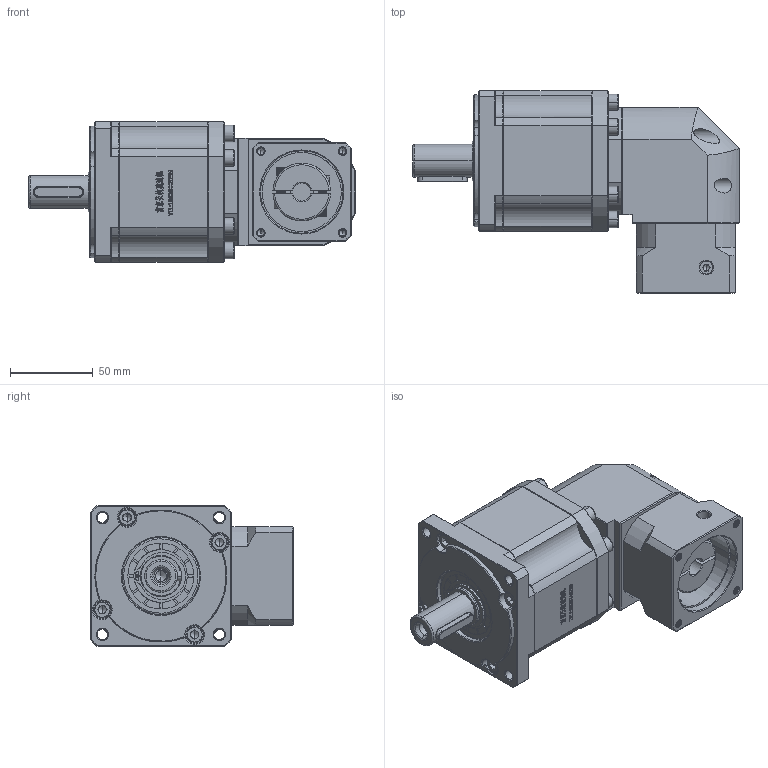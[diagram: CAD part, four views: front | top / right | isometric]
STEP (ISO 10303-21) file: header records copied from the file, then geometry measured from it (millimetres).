
FILE_DESCRIPTION (( 'STEP AP214' ), '1' );
FILE_NAME ('ZBR90-D20-L3-11-50-70-M5.step', '2022-05-07T15:17:13', ( '' ), ( 'Microsoft' ), 'SwSTEP 2.0', 'SolidWorks 2016', '' );
FILE_SCHEMA (( 'AUTOMOTIVE_DESIGN' ));
Length unit declared in the file: millimetre
Products named in the file (1): ZBR90-D20-L3-11-50-70-M5
Bounding box: 198 x 122.7 x 85 mm (x, y, z)
Volume: 921128.1 mm3; surface area: 105477.1 mm2
Topology: 5 solids, 5 shells, 3040 faces, 8164 edges, 5268 vertices
Faces by surface type: plane 1598, bspline 608, cylinder 445, cone 369, torus 20
Entity records: 163473 total; most frequent: CARTESIAN_POINT 58490, ORIENTED_EDGE 16236, DIRECTION 12532, EDGE_CURVE 8118, VECTOR 5350, LINE 5350, VERTEX_POINT 5268, AXIS2_PLACEMENT_3D 3591
